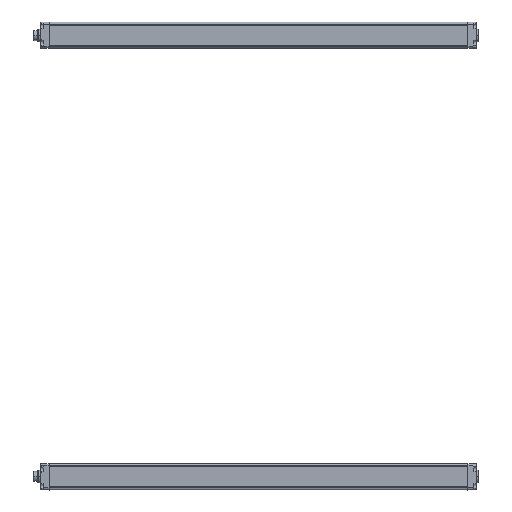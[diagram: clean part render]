
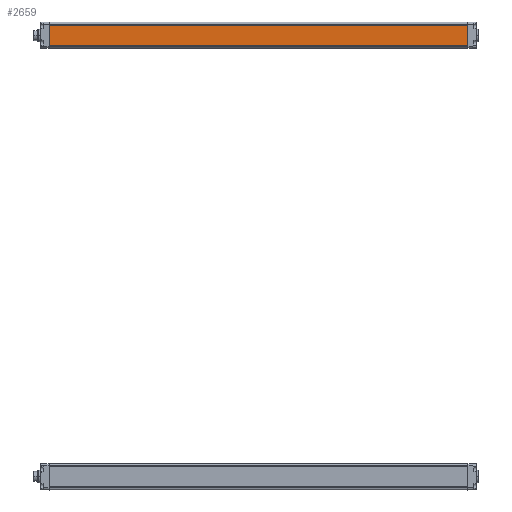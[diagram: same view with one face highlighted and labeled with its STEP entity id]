
A CAD part, front view. The second image highlights one B-rep face of the part: STEP entity #2659.
In plain terms, the highlighted planar face has unit normal (0, -1, 0).
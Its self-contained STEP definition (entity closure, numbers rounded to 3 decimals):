
#154=DIRECTION('',(0.,0.,-1.));
#155=VECTOR('',#154,24.);
#156=CARTESIAN_POINT('',(0.,-15.15,12.));
#157=LINE('',#156,#155);
#412=DIRECTION('',(0.,0.,-1.));
#413=VECTOR('',#412,24.);
#414=CARTESIAN_POINT('',(500.,-15.15,12.));
#415=LINE('',#414,#413);
#880=DIRECTION('',(1.,0.,0.));
#881=VECTOR('',#880,500.);
#882=CARTESIAN_POINT('',(0.,-15.15,12.));
#883=LINE('',#882,#881);
#884=DIRECTION('',(1.,0.,0.));
#885=VECTOR('',#884,500.);
#886=CARTESIAN_POINT('',(0.,-15.15,-12.));
#887=LINE('',#886,#885);
#1298=CARTESIAN_POINT('',(0.,-15.15,12.));
#1299=CARTESIAN_POINT('',(500.,-15.15,12.));
#1300=VERTEX_POINT('',#1298);
#1301=VERTEX_POINT('',#1299);
#1310=CARTESIAN_POINT('',(0.,-15.15,-12.));
#1311=CARTESIAN_POINT('',(500.,-15.15,-12.));
#1312=VERTEX_POINT('',#1310);
#1313=VERTEX_POINT('',#1311);
#2646=CARTESIAN_POINT('',(0.,-15.15,15.65));
#2647=DIRECTION('',(0.,-1.,0.));
#2648=DIRECTION('',(0.,0.,-1.));
#2649=AXIS2_PLACEMENT_3D('',#2646,#2647,#2648);
#2650=PLANE('',#2649);
#2652=ORIENTED_EDGE('',*,*,#2651,.T.);
#2653=ORIENTED_EDGE('',*,*,#1938,.T.);
#2655=ORIENTED_EDGE('',*,*,#2654,.F.);
#2656=ORIENTED_EDGE('',*,*,#1671,.F.);
#2657=EDGE_LOOP('',(#2652,#2653,#2655,#2656));
#2658=FACE_OUTER_BOUND('',#2657,.F.);
#2659=ADVANCED_FACE('',(#2658),#2650,.T.);
#1671=EDGE_CURVE('',#1300,#1312,#157,.T.);
#1938=EDGE_CURVE('',#1301,#1313,#415,.T.);
#2651=EDGE_CURVE('',#1300,#1301,#883,.T.);
#2654=EDGE_CURVE('',#1312,#1313,#887,.T.);
